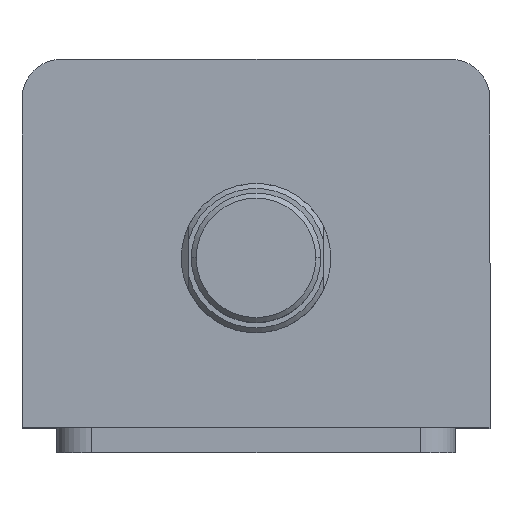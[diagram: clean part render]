
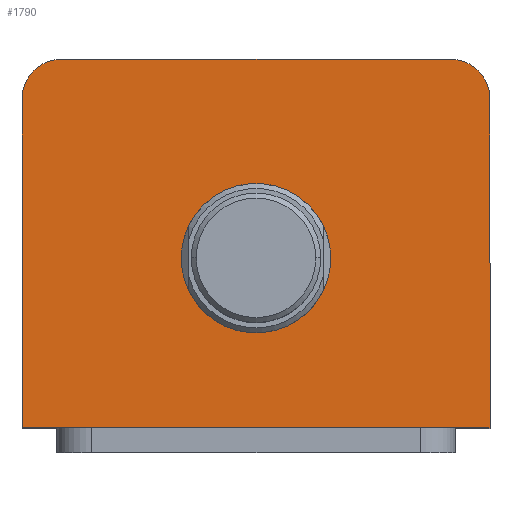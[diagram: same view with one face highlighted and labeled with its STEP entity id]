
A CAD part, top view. The second image highlights one B-rep face of the part: STEP entity #1790.
In plain terms, the highlighted planar face has unit normal (0, 0, 1).
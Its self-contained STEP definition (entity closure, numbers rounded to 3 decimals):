
#26 = LINE ( 'NONE', #2380, #29 ) ;
#29 = VECTOR ( 'NONE', #2375, 1000. ) ;
#71 = LINE ( 'NONE', #2296, #74 ) ;
#74 = VECTOR ( 'NONE', #2293, 1000. ) ;
#87 = CIRCLE ( 'NONE', #874, 8. ) ;
#205 = CIRCLE ( 'NONE', #1871, 8. ) ;
#213 = LINE ( 'NONE', #1358, #216 ) ;
#216 = VECTOR ( 'NONE', #1359, 1000. ) ;
#229 = LINE ( 'NONE', #1374, #232 ) ;
#232 = VECTOR ( 'NONE', #1375, 1000. ) ;
#246 = CIRCLE ( 'NONE', #1876, 15. ) ;
#294 = FACE_BOUND ( 'NONE', #2139, .T. ) ;
#300 = FACE_OUTER_BOUND ( 'NONE', #2176, .T. ) ;
#589 = DIRECTION ( 'NONE',  ( 1., 0., 0. ) ) ;
#594 = CARTESIAN_POINT ( 'NONE',  ( 39., 29., 135. ) ) ;
#596 = DIRECTION ( 'NONE',  ( 0., 0., 1. ) ) ;
#745 = EDGE_CURVE ( 'NONE', #2637, #2642, #2961, .T. ) ;
#769 = EDGE_CURVE ( 'NONE', #2651, #2671, #26, .T. ) ;
#793 = EDGE_CURVE ( 'NONE', #2590, #2166, #71, .T. ) ;
#806 = EDGE_CURVE ( 'NONE', #2671, #2590, #87, .T. ) ;
#854 = AXIS2_PLACEMENT_3D ( 'NONE', #2460, #2561, #2560 ) ;
#874 = AXIS2_PLACEMENT_3D ( 'NONE', #594, #596, #589 ) ;
#1010 = EDGE_CURVE ( 'NONE', #2166, #2262, #205, .T. ) ;
#1016 = EDGE_CURVE ( 'NONE', #2674, #2651, #213, .T. ) ;
#1024 = EDGE_CURVE ( 'NONE', #2262, #2674, #229, .T. ) ;
#1033 = EDGE_CURVE ( 'NONE', #2642, #2637, #246, .T. ) ;
#1340 = CARTESIAN_POINT ( 'NONE',  ( -39., 29., 135. ) ) ;
#1341 = DIRECTION ( 'NONE',  ( 0., 0., 1. ) ) ;
#1342 = DIRECTION ( 'NONE',  ( 1., 0., 0. ) ) ;
#1358 = CARTESIAN_POINT ( 'NONE',  ( -47., -37., 135. ) ) ;
#1359 = DIRECTION ( 'NONE',  ( 1., 0., 0. ) ) ;
#1374 = CARTESIAN_POINT ( 'NONE',  ( -47., 37., 135. ) ) ;
#1375 = DIRECTION ( 'NONE',  ( 0., -1., 0. ) ) ;
#1391 = CARTESIAN_POINT ( 'NONE',  ( 0., -3., 135. ) ) ;
#1392 = DIRECTION ( 'NONE',  ( 0., 0., 1. ) ) ;
#1393 = DIRECTION ( 'NONE',  ( 1., 0., 0. ) ) ;
#1467 = CARTESIAN_POINT ( 'NONE',  ( 0., 0., 135. ) ) ;
#1469 = PLANE ( 'NONE',  #1892 ) ;
#1474 = DIRECTION ( 'NONE',  ( 0., 0., 1. ) ) ;
#1475 = DIRECTION ( 'NONE',  ( 1., 0., 0. ) ) ;
#1561 = CARTESIAN_POINT ( 'NONE',  ( -39., 37., 135. ) ) ;
#1596 = CARTESIAN_POINT ( 'NONE',  ( -47., 29., 135. ) ) ;
#1600 = CARTESIAN_POINT ( 'NONE',  ( 39., 37., 135. ) ) ;
#1654 = CARTESIAN_POINT ( 'NONE',  ( -15., -3., 135. ) ) ;
#1659 = CARTESIAN_POINT ( 'NONE',  ( 15., -3., 135. ) ) ;
#1668 = CARTESIAN_POINT ( 'NONE',  ( 47., -37., 135. ) ) ;
#1688 = CARTESIAN_POINT ( 'NONE',  ( 47., 29., 135. ) ) ;
#1691 = CARTESIAN_POINT ( 'NONE',  ( -47., -37., 135. ) ) ;
#1790 = ADVANCED_FACE ( 'NONE', ( #294, #300 ), #1469, .T. ) ;
#1871 = AXIS2_PLACEMENT_3D ( 'NONE', #1340, #1341, #1342 ) ;
#1876 = AXIS2_PLACEMENT_3D ( 'NONE', #1391, #1392, #1393 ) ;
#1892 = AXIS2_PLACEMENT_3D ( 'NONE', #1467, #1474, #1475 ) ;
#2139 = EDGE_LOOP ( 'NONE', ( #2416, #2415 ) ) ;
#2166 = VERTEX_POINT ( 'NONE', #1561 ) ;
#2176 = EDGE_LOOP ( 'NONE', ( #2414, #2413, #2412, #2411, #2410, #2409 ) ) ;
#2262 = VERTEX_POINT ( 'NONE', #1596 ) ;
#2293 = DIRECTION ( 'NONE',  ( -1., 0., 0. ) ) ;
#2296 = CARTESIAN_POINT ( 'NONE',  ( -47., 37., 135. ) ) ;
#2375 = DIRECTION ( 'NONE',  ( 0., 1., 0. ) ) ;
#2380 = CARTESIAN_POINT ( 'NONE',  ( 47., 37., 135. ) ) ;
#2409 = ORIENTED_EDGE ( 'NONE', *, *, #806, .T. ) ;
#2410 = ORIENTED_EDGE ( 'NONE', *, *, #769, .T. ) ;
#2411 = ORIENTED_EDGE ( 'NONE', *, *, #1016, .T. ) ;
#2412 = ORIENTED_EDGE ( 'NONE', *, *, #1024, .T. ) ;
#2413 = ORIENTED_EDGE ( 'NONE', *, *, #1010, .T. ) ;
#2414 = ORIENTED_EDGE ( 'NONE', *, *, #793, .T. ) ;
#2415 = ORIENTED_EDGE ( 'NONE', *, *, #745, .F. ) ;
#2416 = ORIENTED_EDGE ( 'NONE', *, *, #1033, .F. ) ;
#2460 = CARTESIAN_POINT ( 'NONE',  ( 0., -3., 135. ) ) ;
#2560 = DIRECTION ( 'NONE',  ( 1., 0., 0. ) ) ;
#2561 = DIRECTION ( 'NONE',  ( 0., 0., 1. ) ) ;
#2590 = VERTEX_POINT ( 'NONE', #1600 ) ;
#2637 = VERTEX_POINT ( 'NONE', #1654 ) ;
#2642 = VERTEX_POINT ( 'NONE', #1659 ) ;
#2651 = VERTEX_POINT ( 'NONE', #1668 ) ;
#2671 = VERTEX_POINT ( 'NONE', #1688 ) ;
#2674 = VERTEX_POINT ( 'NONE', #1691 ) ;
#2961 = CIRCLE ( 'NONE', #854, 15. ) ;
